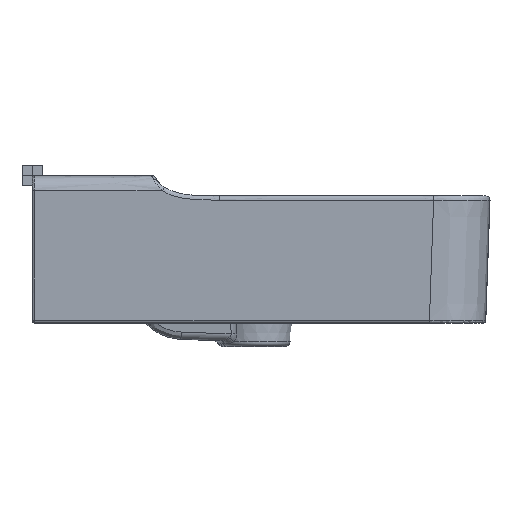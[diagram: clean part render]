
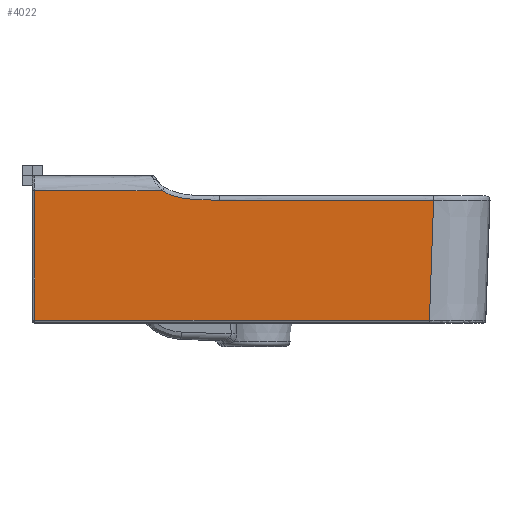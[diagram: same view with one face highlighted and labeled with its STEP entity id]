
A CAD part, left-side view. The second image highlights one B-rep face of the part: STEP entity #4022.
In plain terms, the highlighted planar face has unit normal (-0.999, 0, -0.035).
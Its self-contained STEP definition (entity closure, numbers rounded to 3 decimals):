
#375=DIRECTION('',(-0.035,0.,0.999));
#376=VECTOR('',#375,127.482);
#377=CARTESIAN_POINT('',(-245.551,-2.5,-142.105));
#378=LINE('',#377,#376);
#379=CARTESIAN_POINT('',(-250.,-127.698,
-14.7));
#380=CARTESIAN_POINT('',(-250.,-85.965,
-14.7));
#381=CARTESIAN_POINT('',(-250.,-44.233,
-14.7));
#382=CARTESIAN_POINT('',(-250.,-2.5,-14.7));
#384=CARTESIAN_POINT('',(-249.671,-183.975,
-24.116));
#385=CARTESIAN_POINT('',(-249.671,-183.259,
-24.116));
#386=CARTESIAN_POINT('',(-249.671,-181.893,
-24.116));
#387=CARTESIAN_POINT('',(-249.671,-180.089,
-24.116));
#388=CARTESIAN_POINT('',(-249.671,-178.367,
-24.114));
#389=CARTESIAN_POINT('',(-249.671,-176.588,
-24.109));
#390=CARTESIAN_POINT('',(-249.672,-174.583,
-24.097));
#391=CARTESIAN_POINT('',(-249.673,-172.397,
-24.074));
#392=CARTESIAN_POINT('',(-249.674,-170.016,
-24.033));
#393=CARTESIAN_POINT('',(-249.676,-167.543,
-23.969));
#394=CARTESIAN_POINT('',(-249.679,-165.082,
-23.88));
#395=CARTESIAN_POINT('',(-249.684,-162.612,
-23.761));
#396=CARTESIAN_POINT('',(-249.689,-160.076,
-23.604));
#397=CARTESIAN_POINT('',(-249.696,-157.463,
-23.399));
#398=CARTESIAN_POINT('',(-249.705,-154.798,
-23.139));
#399=CARTESIAN_POINT('',(-249.717,-152.115,
-22.815));
#400=CARTESIAN_POINT('',(-249.73,-149.442,
-22.423));
#401=CARTESIAN_POINT('',(-249.747,-146.805,
-21.958));
#402=CARTESIAN_POINT('',(-249.765,-144.229,
-21.417));
#403=CARTESIAN_POINT('',(-249.787,-141.731,
-20.798));
#404=CARTESIAN_POINT('',(-249.812,-139.297,
-20.093));
#405=CARTESIAN_POINT('',(-249.84,-136.892,
-19.282));
#406=CARTESIAN_POINT('',(-249.872,-134.531,
-18.357));
#407=CARTESIAN_POINT('',(-249.909,-132.229,
-17.313));
#408=CARTESIAN_POINT('',(-249.951,-129.908,
-16.091));
#409=CARTESIAN_POINT('',(-249.983,-128.426,
-15.182));
#410=CARTESIAN_POINT('',(-250.,-127.698,
-14.7));
#412=CARTESIAN_POINT('',(-249.671,-183.975,
-24.116));
#413=CARTESIAN_POINT('',(-249.671,-193.216,
-24.116));
#414=CARTESIAN_POINT('',(-249.671,-211.114,
-24.116));
#415=CARTESIAN_POINT('',(-249.671,-236.051,
-24.116));
#416=CARTESIAN_POINT('',(-249.671,-259.549,
-24.116));
#417=CARTESIAN_POINT('',(-249.671,-280.759,
-24.116));
#418=CARTESIAN_POINT('',(-249.671,-299.321,
-24.116));
#419=CARTESIAN_POINT('',(-249.671,-315.586,
-24.116));
#420=CARTESIAN_POINT('',(-249.671,-329.994,
-24.116));
#421=CARTESIAN_POINT('',(-249.671,-342.793,
-24.116));
#422=CARTESIAN_POINT('',(-249.671,-354.075,
-24.116));
#423=CARTESIAN_POINT('',(-249.671,-364.182,
-24.116));
#424=CARTESIAN_POINT('',(-249.671,-373.594,
-24.116));
#425=CARTESIAN_POINT('',(-249.671,-383.378,
-24.116));
#426=CARTESIAN_POINT('',(-249.671,-390.765,
-24.114));
#427=CARTESIAN_POINT('',(-249.671,-394.624,
-24.112));
#429=CARTESIAN_POINT('',(-249.671,-394.624,
-24.112));
#430=CARTESIAN_POINT('',(-248.298,-393.256,
-63.443));
#431=CARTESIAN_POINT('',(-246.924,-391.889,
-102.774));
#432=CARTESIAN_POINT('',(-245.551,-390.522,
-142.105));
#434=DIRECTION('',(0.,1.,0.));
#435=VECTOR('',#434,388.022);
#436=CARTESIAN_POINT('',(-245.551,-390.522,
-142.105));
#437=LINE('',#436,#435);
#2034=CARTESIAN_POINT('',(-245.551,-390.522,
-142.105));
#2036=CARTESIAN_POINT('',(-249.671,-394.624,
-24.112));
#3498=VERTEX_POINT('',#2034);
#3504=CARTESIAN_POINT('',(-245.551,-2.5,-142.105));
#3506=VERTEX_POINT('',#3504);
#3507=CARTESIAN_POINT('',(-250.,-2.5,-14.7));
#3508=VERTEX_POINT('',#3507);
#3513=VERTEX_POINT('',#384);
#3514=VERTEX_POINT('',#410);
#3524=VERTEX_POINT('',#2036);
#4004=CARTESIAN_POINT('',(-247.463,-224.825,-87.35));
#4005=DIRECTION('',(-0.999,0.,-0.035));
#4006=DIRECTION('',(-0.035,0.,0.999));
#4007=AXIS2_PLACEMENT_3D('',#4004,#4005,#4006);
#4008=PLANE('',#4007);
#4010=ORIENTED_EDGE('',*,*,#4009,.T.);
#4012=ORIENTED_EDGE('',*,*,#4011,.F.);
#4014=ORIENTED_EDGE('',*,*,#4013,.F.);
#4016=ORIENTED_EDGE('',*,*,#4015,.T.);
#4018=ORIENTED_EDGE('',*,*,#4017,.T.);
#4019=ORIENTED_EDGE('',*,*,#3995,.T.);
#4020=EDGE_LOOP('',(#4010,#4012,#4014,#4016,#4018,#4019));
#4021=FACE_OUTER_BOUND('',#4020,.F.);
#4022=ADVANCED_FACE('',(#4021),#4008,.T.);
#383=B_SPLINE_CURVE_WITH_KNOTS('',3,(#379,#380,#381,#382),.UNSPECIFIED.,.F.,.F.,
(4,4),(0.,1.),.UNSPECIFIED.);
#411=B_SPLINE_CURVE_WITH_KNOTS('',3,(#384,#385,#386,#387,#388,#389,#390,#391,
#392,#393,#394,#395,#396,#397,#398,#399,#400,#401,#402,#403,#404,#405,#406,#407,
#408,#409,#410),.UNSPECIFIED.,.F.,.F.,(4,1,1,1,1,1,1,1,1,1,1,1,1,1,1,1,1,1,1,1,
1,1,1,1,4),(0.,0.042,0.083,0.125,0.167,
0.208,0.25,0.292,0.333,0.375,
0.417,0.458,0.5,0.542,0.583,
0.625,0.667,0.708,0.75,0.792,
0.833,0.875,0.917,0.958,1.),
.UNSPECIFIED.);
#428=B_SPLINE_CURVE_WITH_KNOTS('',3,(#412,#413,#414,#415,#416,#417,#418,#419,
#420,#421,#422,#423,#424,#425,#426,#427),.UNSPECIFIED.,.F.,.F.,(4,1,1,1,1,1,1,1,
1,1,1,1,1,4),(0.,0.077,0.154,0.231,
0.308,0.385,0.462,0.538,
0.615,0.692,0.769,0.846,
0.923,1.),.UNSPECIFIED.);
#433=B_SPLINE_CURVE_WITH_KNOTS('',3,(#429,#430,#431,#432),.UNSPECIFIED.,.F.,.F.,
(4,4),(0.,1.),.UNSPECIFIED.);
#3995=EDGE_CURVE('',#3498,#3506,#437,.T.);
#4009=EDGE_CURVE('',#3506,#3508,#378,.T.);
#4011=EDGE_CURVE('',#3514,#3508,#383,.T.);
#4013=EDGE_CURVE('',#3513,#3514,#411,.T.);
#4015=EDGE_CURVE('',#3513,#3524,#428,.T.);
#4017=EDGE_CURVE('',#3524,#3498,#433,.T.);
